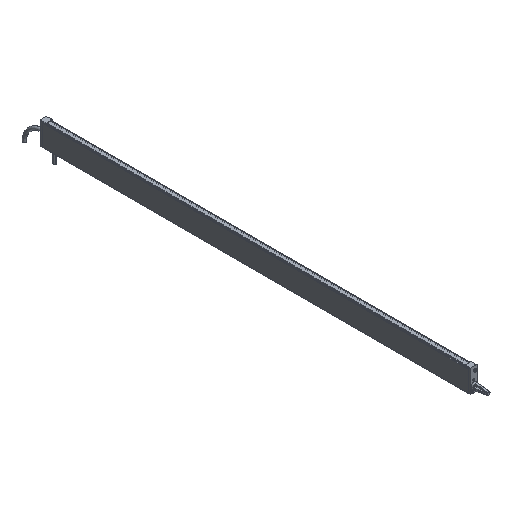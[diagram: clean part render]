
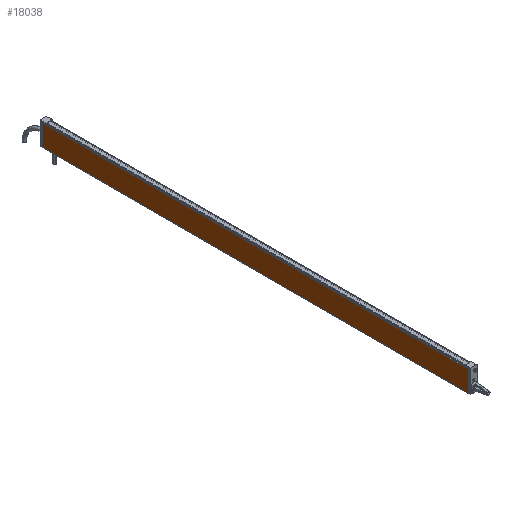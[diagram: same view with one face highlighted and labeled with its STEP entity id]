
A CAD part, isometric view. The second image highlights one B-rep face of the part: STEP entity #18038.
In plain terms, the highlighted planar face has unit normal (-1, 0, 0).
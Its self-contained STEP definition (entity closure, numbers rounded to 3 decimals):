
#564 = DIRECTION ( 'NONE',  ( 0., -1., 0. ) ) ;
#1151 = VECTOR ( 'NONE', #15843, 1000. ) ;
#1300 = VERTEX_POINT ( 'NONE', #13952 ) ;
#2304 = EDGE_CURVE ( 'NONE', #1300, #5511, #16065, .T. ) ;
#3322 = EDGE_CURVE ( 'NONE', #15266, #5511, #13979, .T. ) ;
#5511 = VERTEX_POINT ( 'NONE', #11433 ) ;
#5856 = EDGE_CURVE ( 'NONE', #16147, #15266, #16577, .T. ) ;
#6057 = VECTOR ( 'NONE', #19020, 1000. ) ;
#6820 = CARTESIAN_POINT ( 'NONE',  ( -9., 575., 28.5 ) ) ;
#7004 = DIRECTION ( 'NONE',  ( 0., 0., -1. ) ) ;
#8411 = DIRECTION ( 'NONE',  ( -1., 0., 0. ) ) ;
#8626 = VECTOR ( 'NONE', #7004, 1000. ) ;
#9453 = EDGE_CURVE ( 'NONE', #16147, #1300, #11494, .T. ) ;
#9672 = AXIS2_PLACEMENT_3D ( 'NONE', #6820, #8411, #564 ) ;
#11433 = CARTESIAN_POINT ( 'NONE',  ( -9., 0., 0.5 ) ) ;
#11494 = LINE ( 'NONE', #13009, #15874 ) ;
#13009 = CARTESIAN_POINT ( 'NONE',  ( -9., 575., 28.5 ) ) ;
#13016 = ORIENTED_EDGE ( 'NONE', *, *, #5856, .F. ) ;
#13952 = CARTESIAN_POINT ( 'NONE',  ( -9., 575., 0.5 ) ) ;
#13979 = LINE ( 'NONE', #17456, #8626 ) ;
#14139 = FACE_OUTER_BOUND ( 'NONE', #17012, .T. ) ;
#14856 = DIRECTION ( 'NONE',  ( 0., 0., -1. ) ) ;
#15266 = VERTEX_POINT ( 'NONE', #17122 ) ;
#15759 = CARTESIAN_POINT ( 'NONE',  ( -9., 575., 0.5 ) ) ;
#15843 = DIRECTION ( 'NONE',  ( 0., -1., 0. ) ) ;
#15856 = ORIENTED_EDGE ( 'NONE', *, *, #3322, .F. ) ;
#15874 = VECTOR ( 'NONE', #14856, 1000. ) ;
#16065 = LINE ( 'NONE', #15759, #6057 ) ;
#16147 = VERTEX_POINT ( 'NONE', #16365 ) ;
#16173 = PLANE ( 'NONE',  #9672 ) ;
#16365 = CARTESIAN_POINT ( 'NONE',  ( -9., 575., 28.5 ) ) ;
#16577 = LINE ( 'NONE', #17466, #1151 ) ;
#16953 = ORIENTED_EDGE ( 'NONE', *, *, #9453, .T. ) ;
#17012 = EDGE_LOOP ( 'NONE', ( #15856, #13016, #16953, #19965 ) ) ;
#17122 = CARTESIAN_POINT ( 'NONE',  ( -9., 0., 28.5 ) ) ;
#17456 = CARTESIAN_POINT ( 'NONE',  ( -9., 0., 28.5 ) ) ;
#17466 = CARTESIAN_POINT ( 'NONE',  ( -9., 575., 28.5 ) ) ;
#18038 = ADVANCED_FACE ( 'NONE', ( #14139 ), #16173, .T. ) ;
#19020 = DIRECTION ( 'NONE',  ( 0., -1., 0. ) ) ;
#19965 = ORIENTED_EDGE ( 'NONE', *, *, #2304, .T. ) ;
